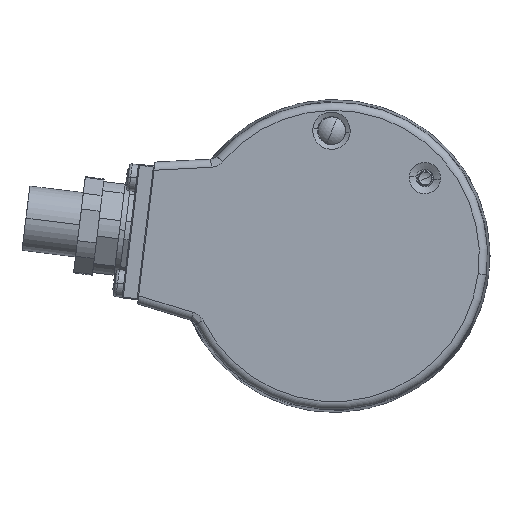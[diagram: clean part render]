
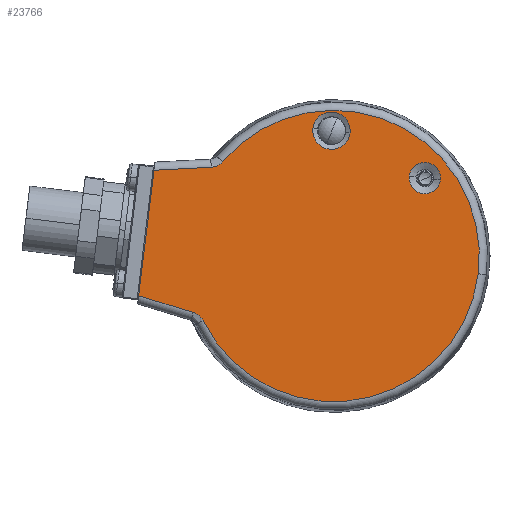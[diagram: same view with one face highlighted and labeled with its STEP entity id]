
A CAD part, left-side view. The second image highlights one B-rep face of the part: STEP entity #23766.
In plain terms, the highlighted planar face has unit normal (-1, 0, 0).
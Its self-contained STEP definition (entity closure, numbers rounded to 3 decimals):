
#275 = VECTOR ( 'NONE', #4416, 1000. ) ;
#356 = CIRCLE ( 'NONE', #9471, 2.899 ) ;
#365 = EDGE_CURVE ( 'NONE', #26298, #9556, #737, .T. ) ;
#737 = CIRCLE ( 'NONE', #13753, 27.022 ) ;
#968 = ORIENTED_EDGE ( 'NONE', *, *, #3936, .T. ) ;
#1283 = CARTESIAN_POINT ( 'NONE',  ( -30.5, 22.299, 16.503 ) ) ;
#1438 = AXIS2_PLACEMENT_3D ( 'NONE', #19236, #6696, #21321 ) ;
#1781 = CARTESIAN_POINT ( 'NONE',  ( -30.5, 20.579, 17.512 ) ) ;
#1818 = EDGE_LOOP ( 'NONE', ( #15737, #22985 ) ) ;
#1975 = B_SPLINE_CURVE_WITH_KNOTS ( 'NONE', 3,
 ( #17129, #23352, #25517, #4605, #19264, #6721, #21343, #8849, #23449, #10948 ),
 .UNSPECIFIED., .F., .F.,
 ( 4, 2, 2, 2, 4 ),
 ( 0., 0.001, 0.001, 0.002, 0.002 ),
 .UNSPECIFIED. ) ;
#2057 = VERTEX_POINT ( 'NONE', #24422 ) ;
#2519 = AXIS2_PLACEMENT_3D ( 'NONE', #9007, #23619, #11122 ) ;
#3260 = DIRECTION ( 'NONE',  ( 1., 0., 0. ) ) ;
#3303 = CARTESIAN_POINT ( 'NONE',  ( -30.5, 22.708, 16.461 ) ) ;
#3393 = CARTESIAN_POINT ( 'NONE',  ( -30.5, 21.716, 16.677 ) ) ;
#3430 = ORIENTED_EDGE ( 'NONE', *, *, #21658, .F. ) ;
#3744 = CARTESIAN_POINT ( 'NONE',  ( -30.5, 26.015, -10.478 ) ) ;
#3936 = EDGE_CURVE ( 'NONE', #10924, #24936, #23881, .T. ) ;
#3975 = EDGE_CURVE ( 'NONE', #7869, #22900, #11455, .T. ) ;
#4013 = EDGE_CURVE ( 'NONE', #26298, #24936, #1975, .T. ) ;
#4372 = CARTESIAN_POINT ( 'NONE',  ( -30.5, 0., 0. ) ) ;
#4416 = DIRECTION ( 'NONE',  ( 0., 0.999, -0.052 ) ) ;
#4446 = EDGE_CURVE ( 'NONE', #25674, #2057, #12742, .T. ) ;
#4605 = CARTESIAN_POINT ( 'NONE',  ( -30.5, 24.657, -11.336 ) ) ;
#4687 = FACE_BOUND ( 'NONE', #24535, .T. ) ;
#4713 = ORIENTED_EDGE ( 'NONE', *, *, #4446, .T. ) ;
#5506 = CARTESIAN_POINT ( 'NONE',  ( -30.5, 21.178, 16.967 ) ) ;
#6158 = EDGE_CURVE ( 'NONE', #10924, #22900, #17135, .T. ) ;
#6333 = ORIENTED_EDGE ( 'NONE', *, *, #20851, .T. ) ;
#6435 = DIRECTION ( 'NONE',  ( 0., -0.956, -0.292 ) ) ;
#6494 = DIRECTION ( 'NONE',  ( 0., -0.993, -0.122 ) ) ;
#6696 = DIRECTION ( 'NONE',  ( 1., 0., 0. ) ) ;
#6721 = CARTESIAN_POINT ( 'NONE',  ( -30.5, 25.107, -10.927 ) ) ;
#7188 = ORIENTED_EDGE ( 'NONE', *, *, #365, .T. ) ;
#7329 = B_SPLINE_CURVE_WITH_KNOTS ( 'NONE', 3,
 ( #3303, #24294, #1283, #15938, #3393, #18050, #5506, #20154, #7647, #22280 ),
 .UNSPECIFIED., .F., .F.,
 ( 4, 2, 2, 2, 4 ),
 ( 0., 0.001, 0.001, 0.002, 0.002 ),
 .UNSPECIFIED. ) ;
#7352 = VECTOR ( 'NONE', #8434, 1000. ) ;
#7647 = CARTESIAN_POINT ( 'NONE',  ( -30.5, 20.712, 17.356 ) ) ;
#7673 = EDGE_LOOP ( 'NONE', ( #3430, #23446, #20467, #968, #15569, #7188, #6333 ) ) ;
#7718 = EDGE_CURVE ( 'NONE', #26109, #13154, #356, .T. ) ;
#7869 = VERTEX_POINT ( 'NONE', #24520 ) ;
#8426 = CARTESIAN_POINT ( 'NONE',  ( -30.5, -3.034, 22.824 ) ) ;
#8434 = DIRECTION ( 'NONE',  ( 0., -0.122, 0.993 ) ) ;
#8849 = CARTESIAN_POINT ( 'NONE',  ( -30.5, 25.632, -10.617 ) ) ;
#9007 = CARTESIAN_POINT ( 'NONE',  ( -30.5, -16.919, 14.45 ) ) ;
#9256 = CARTESIAN_POINT ( 'NONE',  ( -30.5, -14.042, 14.804 ) ) ;
#9396 = AXIS2_PLACEMENT_3D ( 'NONE', #4372, #19035, #6494 ) ;
#9471 = AXIS2_PLACEMENT_3D ( 'NONE', #15800, #3260, #17909 ) ;
#9556 = VERTEX_POINT ( 'NONE', #14182 ) ;
#9964 = DIRECTION ( 'NONE',  ( -1., 0., 0. ) ) ;
#10260 = FACE_OUTER_BOUND ( 'NONE', #7673, .T. ) ;
#10372 = CIRCLE ( 'NONE', #1438, 3.466 ) ;
#10775 = CARTESIAN_POINT ( 'NONE',  ( -30.5, 33.046, 15.919 ) ) ;
#10794 = AXIS2_PLACEMENT_3D ( 'NONE', #11723, #26372, #13818 ) ;
#10924 = VERTEX_POINT ( 'NONE', #23068 ) ;
#10948 = CARTESIAN_POINT ( 'NONE',  ( -30.5, 26.015, -10.478 ) ) ;
#11122 = DIRECTION ( 'NONE',  ( 0., -0.993, -0.122 ) ) ;
#11162 = CARTESIAN_POINT ( 'NONE',  ( -30.5, 33.31, 15.905 ) ) ;
#11390 = PLANE ( 'NONE',  #19440 ) ;
#11455 = LINE ( 'NONE', #10775, #275 ) ;
#11694 = EDGE_CURVE ( 'NONE', #13154, #26109, #16911, .T. ) ;
#11723 = CARTESIAN_POINT ( 'NONE',  ( -30.5, 0.406, 23.246 ) ) ;
#12104 = VECTOR ( 'NONE', #6435, 1000. ) ;
#12742 = CIRCLE ( 'NONE', #10794, 3.466 ) ;
#13154 = VERTEX_POINT ( 'NONE', #9256 ) ;
#13386 = VERTEX_POINT ( 'NONE', #1781 ) ;
#13493 = DIRECTION ( 'NONE',  ( 0., -0.993, -0.122 ) ) ;
#13753 = AXIS2_PLACEMENT_3D ( 'NONE', #22491, #9964, #24615 ) ;
#13818 = DIRECTION ( 'NONE',  ( 0., -0.993, -0.122 ) ) ;
#14182 = CARTESIAN_POINT ( 'NONE',  ( -30.5, -26.821, -3.293 ) ) ;
#14806 = CARTESIAN_POINT ( 'NONE',  ( -30.5, 25.362, -10.678 ) ) ;
#15495 = CARTESIAN_POINT ( 'NONE',  ( -30.5, 0., 0. ) ) ;
#15569 = ORIENTED_EDGE ( 'NONE', *, *, #4013, .F. ) ;
#15737 = ORIENTED_EDGE ( 'NONE', *, *, #11694, .T. ) ;
#15800 = CARTESIAN_POINT ( 'NONE',  ( -30.5, -16.919, 14.45 ) ) ;
#15938 = CARTESIAN_POINT ( 'NONE',  ( -30.5, 21.906, 16.606 ) ) ;
#16911 = CIRCLE ( 'NONE', #2519, 2.899 ) ;
#17129 = CARTESIAN_POINT ( 'NONE',  ( -30.5, 24.205, -12.014 ) ) ;
#17135 = LINE ( 'NONE', #23050, #7352 ) ;
#17685 = CARTESIAN_POINT ( 'NONE',  ( -30.5, 24.205, -12.014 ) ) ;
#17909 = DIRECTION ( 'NONE',  ( 0., -0.993, -0.122 ) ) ;
#18050 = CARTESIAN_POINT ( 'NONE',  ( -30.5, 21.352, 16.857 ) ) ;
#18874 = CIRCLE ( 'NONE', #9396, 27.022 ) ;
#19035 = DIRECTION ( 'NONE',  ( -1., 0., 0. ) ) ;
#19236 = CARTESIAN_POINT ( 'NONE',  ( -30.5, 0.406, 23.246 ) ) ;
#19264 = CARTESIAN_POINT ( 'NONE',  ( -30.5, 24.797, -11.19 ) ) ;
#19440 = AXIS2_PLACEMENT_3D ( 'NONE', #15495, #26039, #13493 ) ;
#19881 = ORIENTED_EDGE ( 'NONE', *, *, #20571, .T. ) ;
#20154 = CARTESIAN_POINT ( 'NONE',  ( -30.5, 20.859, 17.216 ) ) ;
#20467 = ORIENTED_EDGE ( 'NONE', *, *, #6158, .F. ) ;
#20571 = EDGE_CURVE ( 'NONE', #2057, #25674, #10372, .T. ) ;
#20851 = EDGE_CURVE ( 'NONE', #9556, #13386, #18874, .T. ) ;
#21321 = DIRECTION ( 'NONE',  ( 0., -0.993, -0.122 ) ) ;
#21343 = CARTESIAN_POINT ( 'NONE',  ( -30.5, 25.277, -10.811 ) ) ;
#21383 = FACE_BOUND ( 'NONE', #1818, .T. ) ;
#21658 = EDGE_CURVE ( 'NONE', #7869, #13386, #7329, .T. ) ;
#22280 = CARTESIAN_POINT ( 'NONE',  ( -30.5, 20.579, 17.512 ) ) ;
#22491 = CARTESIAN_POINT ( 'NONE',  ( -30.5, 0., 0. ) ) ;
#22900 = VERTEX_POINT ( 'NONE', #11162 ) ;
#22985 = ORIENTED_EDGE ( 'NONE', *, *, #7718, .T. ) ;
#23050 = CARTESIAN_POINT ( 'NONE',  ( -30.5, 36.354, -8.886 ) ) ;
#23068 = CARTESIAN_POINT ( 'NONE',  ( -30.5, 36.168, -7.374 ) ) ;
#23352 = CARTESIAN_POINT ( 'NONE',  ( -30.5, 24.296, -11.83 ) ) ;
#23446 = ORIENTED_EDGE ( 'NONE', *, *, #3975, .T. ) ;
#23449 = CARTESIAN_POINT ( 'NONE',  ( -30.5, 25.819, -10.538 ) ) ;
#23619 = DIRECTION ( 'NONE',  ( 1., 0., 0. ) ) ;
#23766 = ADVANCED_FACE ( 'NONE', ( #4687, #21383, #10260 ), #11390, .F. ) ;
#23881 = LINE ( 'NONE', #14806, #12104 ) ;
#24294 = CARTESIAN_POINT ( 'NONE',  ( -30.5, 22.503, 16.471 ) ) ;
#24422 = CARTESIAN_POINT ( 'NONE',  ( -30.5, 3.846, 23.669 ) ) ;
#24520 = CARTESIAN_POINT ( 'NONE',  ( -30.5, 22.708, 16.461 ) ) ;
#24535 = EDGE_LOOP ( 'NONE', ( #19881, #4713 ) ) ;
#24615 = DIRECTION ( 'NONE',  ( 0., -0.993, -0.122 ) ) ;
#24936 = VERTEX_POINT ( 'NONE', #3744 ) ;
#25332 = CARTESIAN_POINT ( 'NONE',  ( -30.5, -19.796, 14.097 ) ) ;
#25517 = CARTESIAN_POINT ( 'NONE',  ( -30.5, 24.406, -11.656 ) ) ;
#25674 = VERTEX_POINT ( 'NONE', #8426 ) ;
#26039 = DIRECTION ( 'NONE',  ( 1., 0., 0. ) ) ;
#26109 = VERTEX_POINT ( 'NONE', #25332 ) ;
#26298 = VERTEX_POINT ( 'NONE', #17685 ) ;
#26372 = DIRECTION ( 'NONE',  ( 1., 0., 0. ) ) ;
